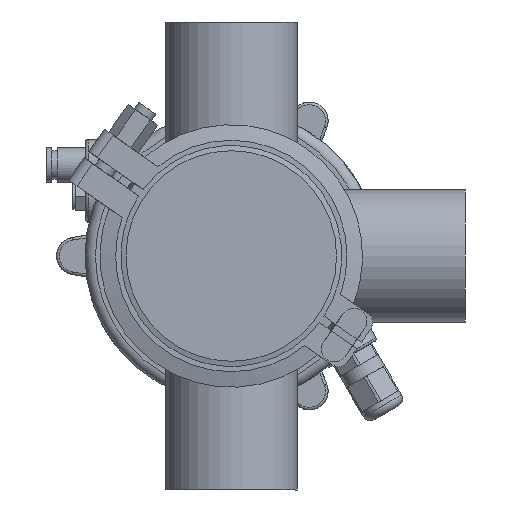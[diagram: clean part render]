
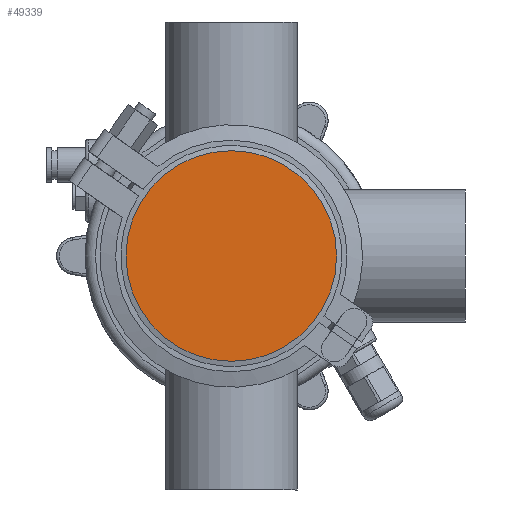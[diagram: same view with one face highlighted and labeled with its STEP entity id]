
A CAD part, front view. The second image highlights one B-rep face of the part: STEP entity #49339.
In plain terms, the highlighted planar face has unit normal (0, -1, 0).
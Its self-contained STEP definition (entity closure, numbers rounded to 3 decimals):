
#1325 = EDGE_CURVE ( 'NONE', #29813, #29813, #12689, .T. ) ;
#6803 = PLANE ( 'NONE',  #28636 ) ;
#11588 = ORIENTED_EDGE ( 'NONE', *, *, #1325, .F. ) ;
#11771 = DIRECTION ( 'NONE',  ( 0., 0., -1. ) ) ;
#12689 = CIRCLE ( 'NONE', #40342, 40.5 ) ;
#23485 = EDGE_LOOP ( 'NONE', ( #11588 ) ) ;
#25142 = CARTESIAN_POINT ( 'NONE',  ( 0., 0., 40.5 ) ) ;
#28636 = AXIS2_PLACEMENT_3D ( 'NONE', #44564, #45758, #11771 ) ;
#29813 = VERTEX_POINT ( 'NONE', #25142 ) ;
#36438 = CARTESIAN_POINT ( 'NONE',  ( 0., 0., 0. ) ) ;
#40342 = AXIS2_PLACEMENT_3D ( 'NONE', #36438, #41990, #60867 ) ;
#41990 = DIRECTION ( 'NONE',  ( 0., 1., 0. ) ) ;
#44564 = CARTESIAN_POINT ( 'NONE',  ( -40.5, 0., 0. ) ) ;
#45758 = DIRECTION ( 'NONE',  ( 0., -1., 0. ) ) ;
#49339 = ADVANCED_FACE ( 'NONE', ( #58832 ), #6803, .T. ) ;
#58832 = FACE_OUTER_BOUND ( 'NONE', #23485, .T. ) ;
#60867 = DIRECTION ( 'NONE',  ( 0., 0., 1. ) ) ;
